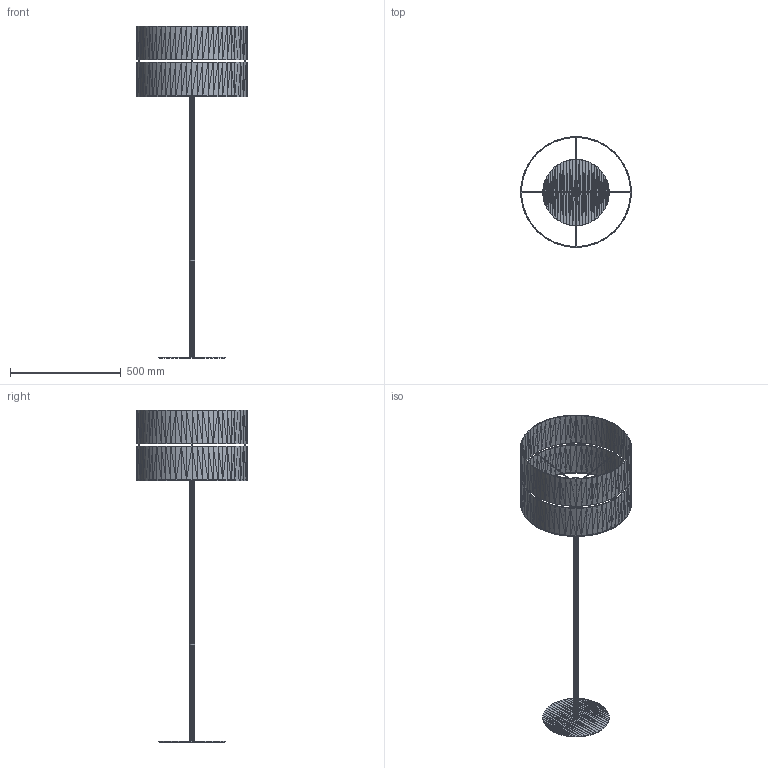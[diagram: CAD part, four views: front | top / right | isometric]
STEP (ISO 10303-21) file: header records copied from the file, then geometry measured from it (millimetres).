
FILE_DESCRIPTION(('FreeCAD Model'),'2;1');
FILE_NAME('Open CASCADE Shape Model','2022-11-28T21:41:48',('Author'),( ''),'Open CASCADE STEP processor 7.6','FreeCAD','Unknown');
FILE_SCHEMA(('AUTOMOTIVE_DESIGN { 1 0 10303 214 1 1 1 1 }'));
Length unit declared in the file: millimetre
Products named in the file (31): Unnamed3; Mesh031 (Solid); Mesh001001 (Solid); Mesh003001 (Solid); Mesh004001 (Solid); Mesh005001 (Solid); Mesh006001 (Solid); Mesh007001 (Solid); Mesh008001 (Solid); Mesh009001 (Solid); Mesh010001 (Solid); Mesh011001 (Solid); Mesh012001 (Solid); Mesh013001 (Solid); Mesh014001 (Solid); Mesh015001 (Solid); Mesh016001 (Solid); Mesh017001 (Solid); Mesh018001 (Solid); Mesh019001 (Solid); Mesh020001 (Solid); Mesh021001 (Solid); Mesh022001 (Solid); Mesh023001 (Solid); Mesh024001 (Solid); Mesh025001 (Solid); Mesh026001 (Solid); Mesh027001 (Solid); Mesh028001 (Solid); Mesh029001 (Solid); Mesh030001 (Solid)
Assembly tree (30 placements, depth 2):
  Unnamed3
    Mesh031 (Solid)
    Mesh001001 (Solid)
    Mesh003001 (Solid)
    Mesh004001 (Solid)
    Mesh005001 (Solid)
    Mesh006001 (Solid)
    Mesh007001 (Solid)
    Mesh008001 (Solid)
    Mesh009001 (Solid)
    Mesh010001 (Solid)
    Mesh011001 (Solid)
    Mesh012001 (Solid)
    Mesh013001 (Solid)
    Mesh014001 (Solid)
    Mesh015001 (Solid)
    Mesh016001 (Solid)
    Mesh017001 (Solid)
    Mesh018001 (Solid)
    Mesh019001 (Solid)
    Mesh020001 (Solid)
    Mesh021001 (Solid)
    Mesh022001 (Solid)
    Mesh023001 (Solid)
    Mesh024001 (Solid)
    Mesh025001 (Solid)
    Mesh026001 (Solid)
    Mesh027001 (Solid)
    Mesh028001 (Solid)
    Mesh029001 (Solid)
    Mesh030001 (Solid)
Bounding box: 499.5 x 499.5 x 1500.13 mm (x, y, z)
Volume: 2818689 mm3; surface area: 1280664.5 mm2
Topology: 27 solids, 81 shells, 8970 faces, 13471 edges, 4555 vertices
Faces by surface type: plane 8970
Entity records: 350618 total; most frequent: DIRECTION 58334, CARTESIAN_POINT 53812, LINE 40172, VECTOR 40172, ORIENTED_EDGE 27150, PCURVE 26657, DEFINITIONAL_REPRESENTATION 26657, EDGE_CURVE 13515
